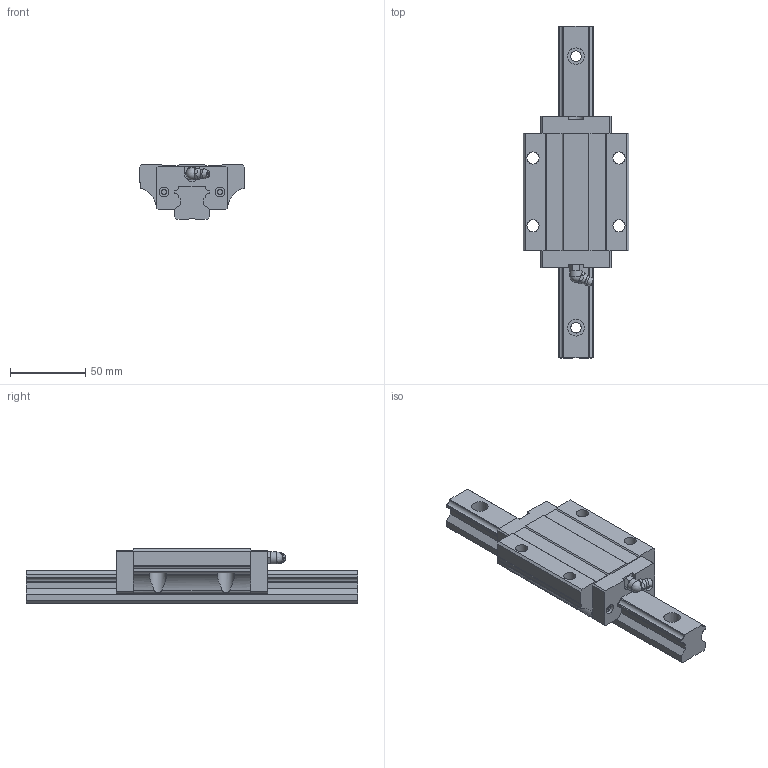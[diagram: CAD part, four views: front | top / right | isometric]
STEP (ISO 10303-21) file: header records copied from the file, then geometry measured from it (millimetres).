
FILE_DESCRIPTION(/* description */ (''),/* implementation_level */ '2;1');
FILE_NAME(/* name */ 'MSA25LA',/* time_stamp */ '2005-12-26T15:49:21+08:00',/* author */ (''),/* organization */ (''),/* preprocessor_version */ 'ST-DEVELOPER v9',/* originating_system */ 'UGS - NX 3.0',/* authorisation */ '');
FILE_SCHEMA (('CONFIG_CONTROL_DESIGN'));
Length unit declared in the file: millimetre
Products named in the file (1): kevi37F33gum
Bounding box: 70 x 220 x 36 mm (x, y, z)
Volume: 225569.6 mm3; surface area: 50119.7 mm2
Topology: 3 solids, 3 shells, 212 faces, 572 edges, 374 vertices
Faces by surface type: plane 150, cylinder 51, torus 7, sphere 2, cone 1, bspline 1
Full cylindrical faces by diameter (mm): 3.25 x4, 6.5 x4, 7 x4, 8 x5, 11 x4
Entity records: 6806 total; most frequent: CARTESIAN_POINT 1436, DIRECTION 1091, ORIENTED_EDGE 1076, EDGE_CURVE 538, AXIS2_PLACEMENT_3D 371, VERTEX_POINT 366, LINE 349, VECTOR 349
